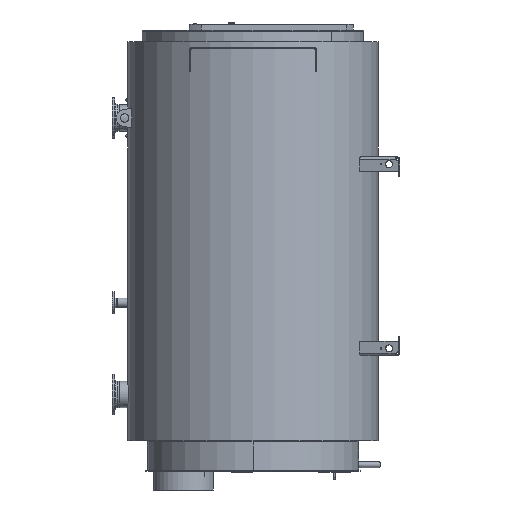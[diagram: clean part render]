
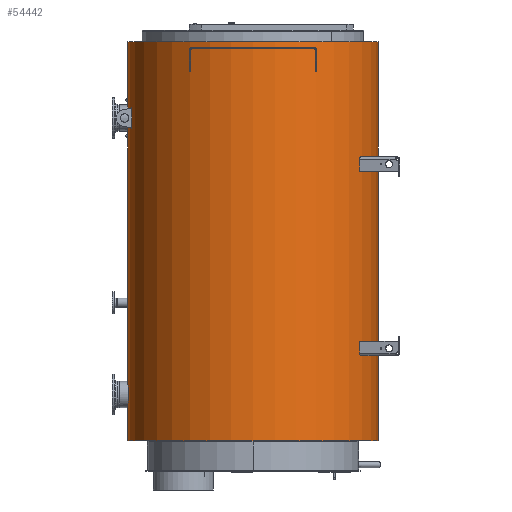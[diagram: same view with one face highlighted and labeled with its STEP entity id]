
A CAD part, left-side view. The second image highlights one B-rep face of the part: STEP entity #54442.
In plain terms, the highlighted cylindrical face has radius 1045 mm (diameter 2090 mm), a full revolution.
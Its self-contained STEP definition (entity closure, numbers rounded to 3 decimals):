
#54406=CARTESIAN_POINT('',(-1045.,-0.,251.));
#54407=VERTEX_POINT('',#54406);
#54408=CARTESIAN_POINT('',(0.,0.,251.));
#54409=DIRECTION('',(-0.,-0.,1.));
#54410=DIRECTION('',(-1.,0.,0.));
#54411=AXIS2_PLACEMENT_3D('',#54408,#54409,#54410);
#54412=CIRCLE('',#54411,1045.);
#54413=EDGE_CURVE('',#54407,#54407,#54412,.T.);
#54418=CARTESIAN_POINT('',(0.,0.,251.002));
#54419=DIRECTION('',(0.,0.,-1.));
#54420=DIRECTION('',(-1.,0.,0.));
#54421=AXIS2_PLACEMENT_3D('',#54418,#54419,#54420);
#54422=CYLINDRICAL_SURFACE('',#54421,1045.);
#54423=CARTESIAN_POINT('',(-1045.,-0.,-3076.));
#54424=VERTEX_POINT('',#54423);
#54425=CARTESIAN_POINT('',(-1045.,0.,-3076.));
#54426=DIRECTION('',(-0.,-0.,1.));
#54427=VECTOR('',#54426,3327.);
#54428=LINE('',#54425,#54427);
#54429=EDGE_CURVE('',#54424,#54407,#54428,.T.);
#54430=ORIENTED_EDGE('',*,*,#54429,.T.);
#54431=ORIENTED_EDGE('',*,*,#54413,.F.);
#54432=ORIENTED_EDGE('',*,*,#54429,.F.);
#54433=CARTESIAN_POINT('',(0.,0.,-3076.));
#54434=DIRECTION('',(0.,0.,-1.));
#54435=DIRECTION('',(-1.,0.,0.));
#54436=AXIS2_PLACEMENT_3D('',#54433,#54434,#54435);
#54437=CIRCLE('',#54436,1045.);
#54438=EDGE_CURVE('',#54424,#54424,#54437,.T.);
#54439=ORIENTED_EDGE('',*,*,#54438,.F.);
#54440=EDGE_LOOP('',(#54430,#54431,#54432,#54439));
#54441=FACE_BOUND('',#54440,.T.);
#54442=ADVANCED_FACE('',(#54441),#54422,.T.);
